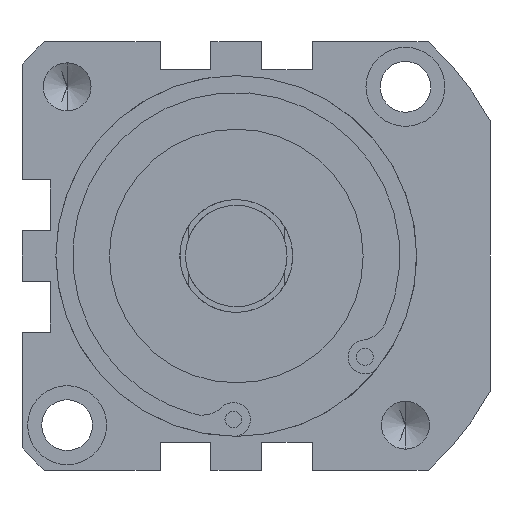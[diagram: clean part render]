
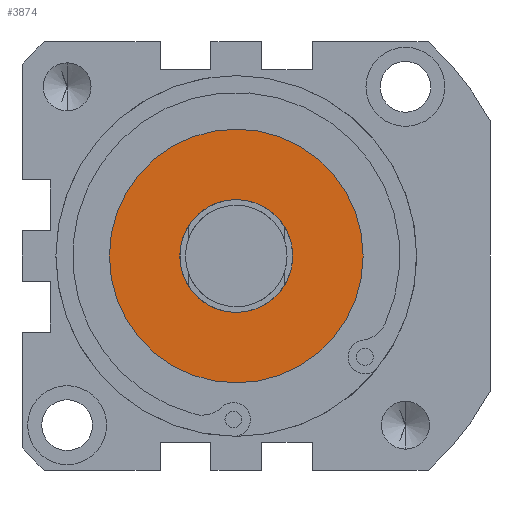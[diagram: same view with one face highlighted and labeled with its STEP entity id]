
A CAD part, front view. The second image highlights one B-rep face of the part: STEP entity #3874.
In plain terms, the highlighted planar face has unit normal (0, -1, 0).
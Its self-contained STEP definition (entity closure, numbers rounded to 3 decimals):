
#76 = ORIENTED_EDGE ( 'NONE', *, *, #1532, .T. ) ;
#166 = DIRECTION ( 'NONE',  ( 0., 1., 0. ) ) ;
#258 = FACE_BOUND ( 'NONE', #3147, .T. ) ;
#276 = ORIENTED_EDGE ( 'NONE', *, *, #1901, .T. ) ;
#353 = EDGE_LOOP ( 'NONE', ( #891, #840 ) ) ;
#412 = CARTESIAN_POINT ( 'NONE',  ( 0., -76., 10. ) ) ;
#484 = DIRECTION ( 'NONE',  ( 0., 0., 1. ) ) ;
#840 = ORIENTED_EDGE ( 'NONE', *, *, #3724, .F. ) ;
#891 = ORIENTED_EDGE ( 'NONE', *, *, #1843, .F. ) ;
#1047 = CIRCLE ( 'NONE', #4422, 22.5 ) ;
#1532 = EDGE_CURVE ( 'NONE', #4268, #3455, #3974, .T. ) ;
#1561 = DIRECTION ( 'NONE',  ( 0., 1., 0. ) ) ;
#1688 = VERTEX_POINT ( 'NONE', #1846 ) ;
#1805 = AXIS2_PLACEMENT_3D ( 'NONE', #4309, #166, #2599 ) ;
#1843 = EDGE_CURVE ( 'NONE', #2103, #1688, #1047, .T. ) ;
#1846 = CARTESIAN_POINT ( 'NONE',  ( 0., -76., 22.5 ) ) ;
#1901 = EDGE_CURVE ( 'NONE', #3455, #4268, #2673, .T. ) ;
#2103 = VERTEX_POINT ( 'NONE', #3754 ) ;
#2213 = DIRECTION ( 'NONE',  ( 0., 0., 1. ) ) ;
#2525 = DIRECTION ( 'NONE',  ( 0., 1., 0. ) ) ;
#2599 = DIRECTION ( 'NONE',  ( 0., 0., 1. ) ) ;
#2628 = DIRECTION ( 'NONE',  ( 0., 1., 0. ) ) ;
#2643 = PLANE ( 'NONE',  #1805 ) ;
#2673 = CIRCLE ( 'NONE', #4050, 10. ) ;
#2805 = CARTESIAN_POINT ( 'NONE',  ( 0., -76., -10. ) ) ;
#2969 = AXIS2_PLACEMENT_3D ( 'NONE', #3144, #3514, #3802 ) ;
#3144 = CARTESIAN_POINT ( 'NONE',  ( 0., -76., 0. ) ) ;
#3147 = EDGE_LOOP ( 'NONE', ( #76, #276 ) ) ;
#3348 = AXIS2_PLACEMENT_3D ( 'NONE', #3972, #2525, #484 ) ;
#3416 = FACE_OUTER_BOUND ( 'NONE', #353, .T. ) ;
#3455 = VERTEX_POINT ( 'NONE', #2805 ) ;
#3514 = DIRECTION ( 'NONE',  ( 0., 1., 0. ) ) ;
#3595 = CARTESIAN_POINT ( 'NONE',  ( 0., -76., 0. ) ) ;
#3724 = EDGE_CURVE ( 'NONE', #1688, #2103, #4053, .T. ) ;
#3754 = CARTESIAN_POINT ( 'NONE',  ( 0., -76., -22.5 ) ) ;
#3802 = DIRECTION ( 'NONE',  ( 0., 0., 1. ) ) ;
#3874 = ADVANCED_FACE ( 'NONE', ( #258, #3416 ), #2643, .F. ) ;
#3972 = CARTESIAN_POINT ( 'NONE',  ( 0., -76., 0. ) ) ;
#3974 = CIRCLE ( 'NONE', #2969, 10. ) ;
#4050 = AXIS2_PLACEMENT_3D ( 'NONE', #4336, #2628, #4322 ) ;
#4053 = CIRCLE ( 'NONE', #3348, 22.5 ) ;
#4268 = VERTEX_POINT ( 'NONE', #412 ) ;
#4309 = CARTESIAN_POINT ( 'NONE',  ( 0., -76., 0. ) ) ;
#4322 = DIRECTION ( 'NONE',  ( 0., 0., 1. ) ) ;
#4336 = CARTESIAN_POINT ( 'NONE',  ( 0., -76., 0. ) ) ;
#4422 = AXIS2_PLACEMENT_3D ( 'NONE', #3595, #1561, #2213 ) ;
